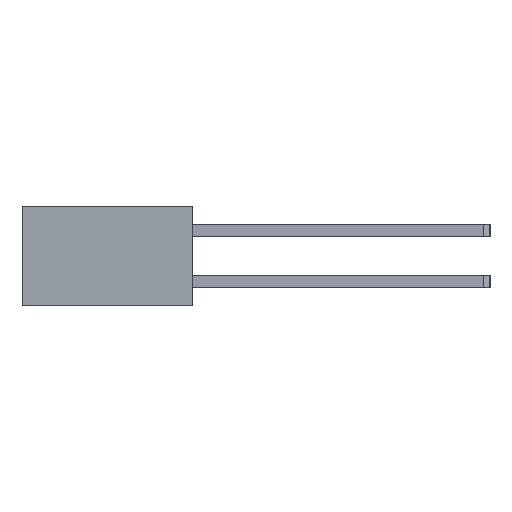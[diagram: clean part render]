
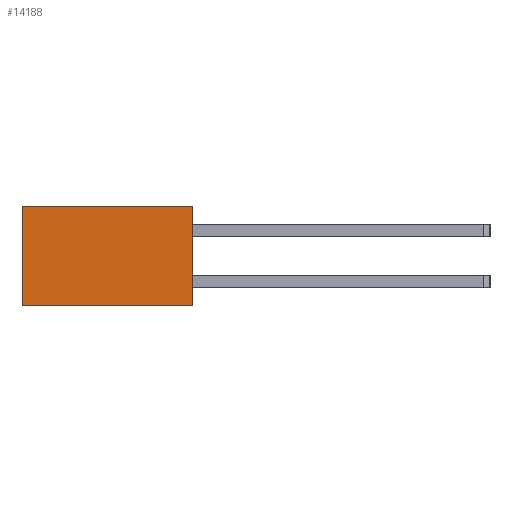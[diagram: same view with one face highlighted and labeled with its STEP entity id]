
A CAD part, left-side view. The second image highlights one B-rep face of the part: STEP entity #14188.
In plain terms, the highlighted planar face has unit normal (-1, 0, 0).
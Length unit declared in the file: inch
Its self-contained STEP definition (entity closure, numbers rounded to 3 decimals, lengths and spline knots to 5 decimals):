
#1187=ORIENTED_EDGE('',*,*,#4904,.T.);
#1188=ORIENTED_EDGE('',*,*,#4175,.F.);
#1189=ORIENTED_EDGE('',*,*,#4957,.F.);
#1190=ORIENTED_EDGE('',*,*,#4167,.T.);
#4167=EDGE_CURVE('',#6184,#6183,#7527,.T.);
#4175=EDGE_CURVE('',#6191,#6192,#7535,.T.);
#4904=EDGE_CURVE('',#6183,#6192,#8264,.T.);
#4957=EDGE_CURVE('',#6184,#6191,#8317,.T.);
#6183=VERTEX_POINT('',#19123);
#6184=VERTEX_POINT('',#19125);
#6191=VERTEX_POINT('',#19140);
#6192=VERTEX_POINT('',#19142);
#7527=LINE('',#19124,#9543);
#7535=LINE('',#19141,#9551);
#8264=LINE('',#20598,#10280);
#8317=LINE('',#20678,#10333);
#9543=VECTOR('',#15543,39.37008);
#9551=VECTOR('',#15553,39.37008);
#10280=VECTOR('',#16700,39.37008);
#10333=VECTOR('',#16807,39.37008);
#11692=EDGE_LOOP('',(#1187,#1188,#1189,#1190));
#12576=FACE_BOUND('',#11692,.T.);
#13460=PLANE('',#14942);
#14188=ADVANCED_FACE('',(#12576),#13460,.F.);
#14942=AXIS2_PLACEMENT_3D('',#20677,#16805,#16806);
#15543=DIRECTION('',(0.,-1.,0.));
#15553=DIRECTION('',(0.,-1.,0.));
#16700=DIRECTION('',(0.,0.,1.));
#16805=DIRECTION('',(1.,0.,0.));
#16806=DIRECTION('',(0.,0.,-1.));
#16807=DIRECTION('',(0.,0.,1.));
#19123=CARTESIAN_POINT('',(-1.31,0.,-0.0975));
#19124=CARTESIAN_POINT('',(-1.31,0.335,-0.0975));
#19125=CARTESIAN_POINT('',(-1.31,0.335,-0.0975));
#19140=CARTESIAN_POINT('',(-1.31,0.335,0.0975));
#19141=CARTESIAN_POINT('',(-1.31,0.335,0.0975));
#19142=CARTESIAN_POINT('',(-1.31,0.,0.0975));
#20598=CARTESIAN_POINT('',(-1.31,0.,-0.0975));
#20677=CARTESIAN_POINT('',(-1.31,0.335,-0.0975));
#20678=CARTESIAN_POINT('',(-1.31,0.335,-0.0975));
